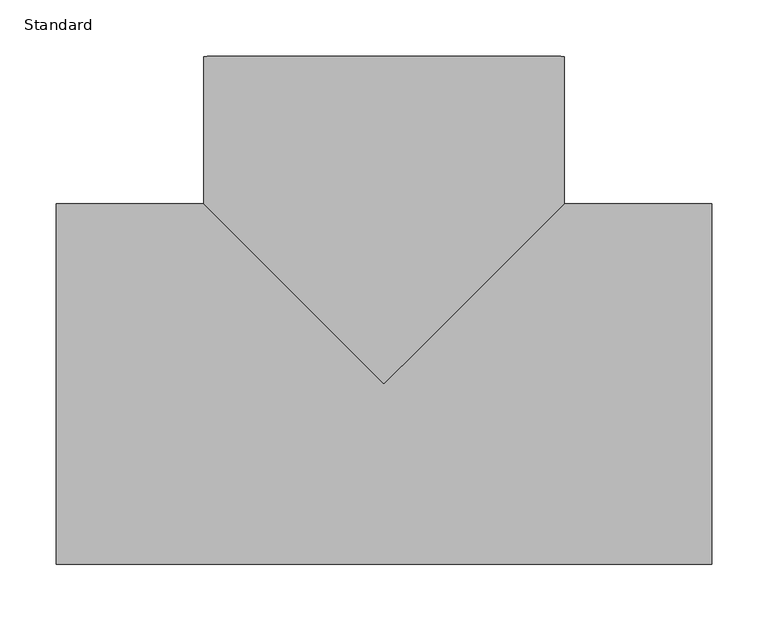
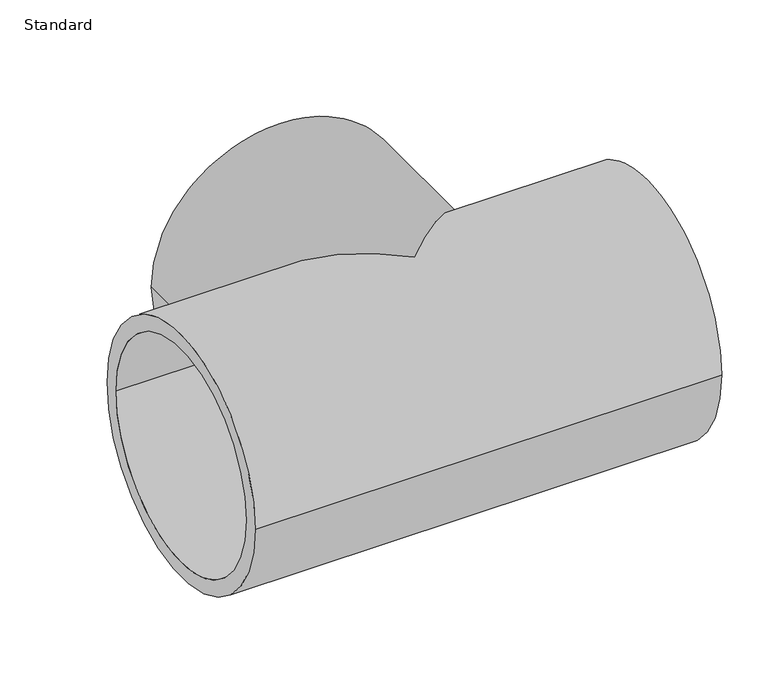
"""IFC4 building model written with IfcOpenShell, lengths in millimetres: pipe fitting geometry, Durapipe_PipeFitting_PVC_Tee90degEqual : Standard."""

from ifc_helpers import new_model, si_unit, frame, origin, place, context, project, spatial, polyline, circle_curve, ellipse_curve, source, transform, mapped, element, save
from ifc_brep_helpers import plane_surface, cylinder_surface, revolved_surface, advanced_brep


def standard_629ca856(model_context):
    return source(origin(), model_context, "Body", "AdvancedBrep", [
        advanced_brep(
        [(-159.5, 290.0, 0.0), (159.5, 290.0, 0.0), (-140.0, 290.0, 0.0), (140.0, 290.0, 0.0), (-159.5, 159.5, 0.0), (0.0, 0.0, 159.5), (159.5, 159.5, 0.0), (0.0, 0.0, -159.5), (-290.0, -159.5, 0.0), (-290.0, 159.5, 0.0), (-290.0, -140.0, 0.0), (-290.0, 140.0, 0.0), (290.0, -159.5, 0.0), (290.0, 159.5, 0.0), (290.0, 140.0, 0.0), (290.0, -140.0, 0.0), (140.0, 144.0, 0.0), (-140.0, 144.0, 0.0), (0.0, 144.0, 0.0), (144.0, -140.0, 0.0), (144.0, 140.0, 0.0), (144.0, 0.0, 0.0), (-144.0, -140.0, 0.0), (-144.0, 140.0, 0.0), (-144.0, 0.0, 0.0)],
        [
            (0, 1, circle_curve(frame((0.0, 290.0, 0.0), z_axis=(0.0, 1.0, 0.0), x_axis=(1.0, 0.0, 0.0)), 159.5)),
            (1, 0, circle_curve(frame((0.0, 290.0, 0.0), z_axis=(0.0, 1.0, 0.0), x_axis=(1.0, 0.0, 0.0)), 159.5)),
            (2, 3, circle_curve(frame((0.0, 290.0, 0.0), z_axis=(0.0, -1.0, 0.0), x_axis=(-1.0, 0.0, 0.0)), 140.0)),
            (3, 2, circle_curve(frame((0.0, 290.0, 0.0), z_axis=(0.0, -1.0, 0.0), x_axis=(-1.0, 0.0, 0.0)), 140.0)),
            (0, 4),
            (4, 5, ellipse_curve(frame((0.0, 0.0, 0.0), z_axis=(0.7071067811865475, 0.7071067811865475, 0.0), x_axis=(-0.7071067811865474, 0.7071067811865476, 0.0)), 225.5670632, 159.5)),
            (5, 6, ellipse_curve(frame((0.0, 0.0, 0.0), z_axis=(-0.7071067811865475, 0.7071067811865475, 0.0), x_axis=(0.7071067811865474, 0.7071067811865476, 0.0)), 225.5670632, 159.5)),
            (6, 1),
            (6, 7, ellipse_curve(frame((0.0, 0.0, 0.0), z_axis=(-0.7071067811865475, 0.7071067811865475, 0.0), x_axis=(0.7071067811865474, 0.7071067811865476, 0.0)), 225.5670632, 159.5)),
            (7, 4, ellipse_curve(frame((0.0, 0.0, 0.0), z_axis=(0.7071067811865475, 0.7071067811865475, 0.0), x_axis=(-0.7071067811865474, 0.7071067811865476, 0.0)), 225.5670632, 159.5)),
            (8, 9, circle_curve(frame((-290.0, 0.0, 0.0), z_axis=(-1.0, 0.0, 0.0), x_axis=(0.0, 1.0, 0.0)), 159.5)),
            (9, 8, circle_curve(frame((-290.0, 0.0, 0.0), z_axis=(-1.0, 0.0, 0.0), x_axis=(0.0, 1.0, 0.0)), 159.5)),
            (10, 11, circle_curve(frame((-290.0, 0.0, 0.0), z_axis=(1.0, 0.0, 0.0), x_axis=(0.0, 1.0, 0.0)), 140.0)),
            (11, 10, circle_curve(frame((-290.0, 0.0, 0.0), z_axis=(1.0, 0.0, 0.0), x_axis=(0.0, 1.0, 0.0)), 140.0)),
            (12, 13, circle_curve(frame((290.0, 0.0, 0.0), z_axis=(1.0, 0.0, 0.0), x_axis=(0.0, 1.0, 0.0)), 159.5)),
            (13, 12, circle_curve(frame((290.0, 0.0, 0.0), z_axis=(1.0, 0.0, 0.0), x_axis=(0.0, 1.0, 0.0)), 159.5)),
            (14, 15, circle_curve(frame((290.0, 0.0, 0.0), z_axis=(-1.0, 0.0, 0.0), x_axis=(0.0, 1.0, 0.0)), 140.0)),
            (15, 14, circle_curve(frame((290.0, 0.0, 0.0), z_axis=(-1.0, 0.0, 0.0), x_axis=(0.0, 1.0, 0.0)), 140.0)),
            (8, 12),
            (13, 6),
            (4, 9),
            (16, 3),
            (2, 17),
            (17, 16, circle_curve(frame((0.0, 144.0, 0.0), z_axis=(0.0, -1.0, 0.0), x_axis=(-1.0, 0.0, 0.0)), 140.0)),
            (16, 17, circle_curve(frame((0.0, 144.0, 0.0), z_axis=(0.0, -1.0, 0.0), x_axis=(-1.0, 0.0, 0.0)), 140.0)),
            (17, 18),
            (18, 16),
            (19, 15),
            (14, 20),
            (20, 19, circle_curve(frame((144.0, 0.0, 0.0), z_axis=(-1.0, 0.0, 0.0), x_axis=(0.0, 1.0, 0.0)), 140.0)),
            (19, 20, circle_curve(frame((144.0, 0.0, 0.0), z_axis=(-1.0, 0.0, 0.0), x_axis=(0.0, 1.0, 0.0)), 140.0)),
            (20, 21),
            (21, 19),
            (10, 22),
            (22, 23, circle_curve(frame((-144.0, 0.0, 0.0), z_axis=(1.0, 0.0, 0.0), x_axis=(0.0, 1.0, 0.0)), 140.0)),
            (23, 11),
            (23, 22, circle_curve(frame((-144.0, 0.0, 0.0), z_axis=(1.0, 0.0, 0.0), x_axis=(0.0, 1.0, 0.0)), 140.0)),
            (22, 24),
            (24, 23),
        ],
        [
            plane_surface(frame((0.0, 290.0, 0.0), z_axis=(0.0, 1.0, 0.0), x_axis=(0.0, 0.0, 1.0))),
            cylinder_surface(frame((0.0, 290.0, 0.0), z_axis=(0.0, 1.0, 0.0), x_axis=(1.0, 0.0, 0.0)), 159.5),
            plane_surface(frame((-290.0, 0.0, 0.0), z_axis=(-1.0, 0.0, 0.0), x_axis=(0.0, 0.0, 1.0))),
            plane_surface(frame((290.0, 0.0, 0.0), z_axis=(1.0, 0.0, 0.0), x_axis=(0.0, 0.0, 1.0))),
            cylinder_surface(frame((-290.0, 0.0, 0.0), z_axis=(-1.0, 0.0, 0.0), x_axis=(0.0, 1.0, 0.0)), 159.5),
            revolved_surface(polyline([(-140.0, 144.0, 0.0), (-140.0, 290.0, 0.0)]), (0.0, 2265.0, 0.0), (0.0, -1.0, 0.0)),
            plane_surface(frame((0.0, 144.0, 0.0), z_axis=(0.0, 1.0, 0.0), x_axis=(-1.0, 0.0, 0.0))),
            revolved_surface(polyline([(144.0, 140.0, 0.0), (290.0, 140.0, 0.0)]), (2266.5, 0.0, 0.0), (-1.0, 0.0, 0.0)),
            plane_surface(frame((144.0, 0.0, 0.0), z_axis=(1.0, 0.0, 0.0), x_axis=(0.0, 1.0, 0.0))),
            revolved_surface(polyline([(-290.0, 140.0, 0.0), (-144.0, 140.0, 0.0)]), (2266.5, 0.0, 0.0), (-1.0, 0.0, 0.0)),
            plane_surface(frame((-144.0, 0.0, 0.0), z_axis=(-1.0, 0.0, 0.0), x_axis=(0.0, 1.0, 0.0))),
        ],
        [
            (0, [[1, 2], [3, 4]]),
            (1, [[-1, 5, 6, 7, 8]]),
            (1, [[-2, -8, 9, 10, -5]]),
            (2, [[11, 12], [13, 14]]),
            (3, [[15, 16], [17, 18]]),
            (4, [[-11, 19, -16, 20, -7, -6, 21]]),
            (4, [[-12, -21, -10, -9, -20, -15, -19]]),
            (5, [[22, -3, 23, 24]]),
            (5, [[-22, 25, -23, -4]]),
            (6, [[-24, 26, 27]]),
            (6, [[-25, -27, -26]]),
            (7, [[28, -17, 29, 30]]),
            (7, [[-28, 31, -29, -18]]),
            (8, [[-30, 32, 33]]),
            (8, [[-31, -33, -32]]),
            (9, [[34, 35, 36, -13]]),
            (9, [[-34, -14, -36, 37]]),
            (10, [[-35, 38, 39]]),
            (10, [[-37, -39, -38]]),
        ],
    ),
    ])


if __name__ == "__main__":
    model = new_model("IFC4")
    model_context = context("Model", 3, world=origin())
    ifc_project = project(units=[si_unit("LENGTHUNIT", "METRE", prefix="MILLI")], contexts=[model_context])
    site = spatial("IfcSite", under=ifc_project)
    building = spatial("IfcBuilding", under=site)
    placement = place(None, origin())
    standard_shape = standard_629ca856(model_context)
    element("IfcPipeFitting", 1, ObjectType="Durapipe_PipeFitting_PVC_Tee90degEqual : Standard", at=placement, inside=building, context=model_context, shape_type="MappedRepresentation", body=[
        mapped(standard_shape, transform((0.0, 0.0, 0.0), x_axis=(1.0, 0.0, 0.0), y_axis=(0.0, 1.0, 0.0), z_axis=(0.0, 0.0, 1.0))),
    ])
    save(model, "model.ifc")
